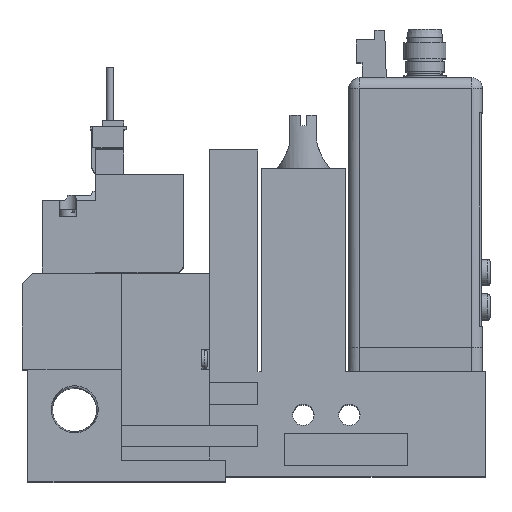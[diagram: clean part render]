
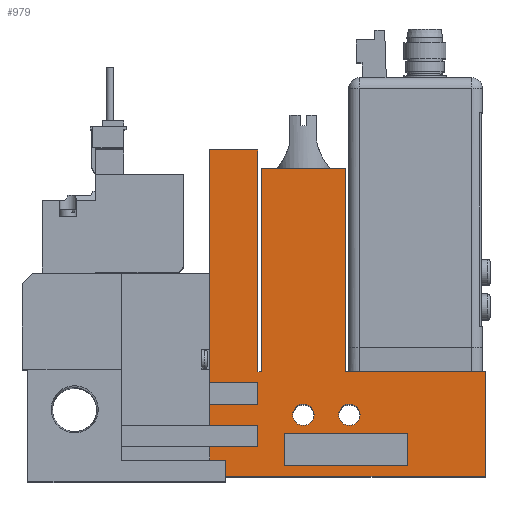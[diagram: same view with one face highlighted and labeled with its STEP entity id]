
A CAD part, top view. The second image highlights one B-rep face of the part: STEP entity #979.
In plain terms, the highlighted planar face has unit normal (0, 0, 1).
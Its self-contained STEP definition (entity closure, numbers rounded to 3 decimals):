
#979=ADVANCED_FACE('',(#4087,#4088,#4089,#4090),#4091,.T.);
#4087=FACE_OUTER_BOUND('',#10687,.T.);
#4088=FACE_BOUND('',#10688,.T.);
#4089=FACE_BOUND('',#10689,.T.);
#4090=FACE_BOUND('',#10690,.T.);
#4091=PLANE('',#10691);
#10687=EDGE_LOOP('',(#18809,#18810,#18811,#18812,#18813,#18814,#18815,#18816,#18817,#18818,#18819,#18820,#18821,#18822,#18823,#18824,#18825,#18826));
#10688=EDGE_LOOP('',(#18827,#18828,#18829,#18830));
#10689=EDGE_LOOP('',(#18831));
#10690=EDGE_LOOP('',(#18832));
#10691=AXIS2_PLACEMENT_3D('',#18833,#18834,#18835);
#18809=ORIENTED_EDGE('',*,*,#40108,.T.);
#18810=ORIENTED_EDGE('',*,*,#40109,.T.);
#18811=ORIENTED_EDGE('',*,*,#40110,.T.);
#18812=ORIENTED_EDGE('',*,*,#40111,.T.);
#18813=ORIENTED_EDGE('',*,*,#40112,.T.);
#18814=ORIENTED_EDGE('',*,*,#40113,.T.);
#18815=ORIENTED_EDGE('',*,*,#40114,.T.);
#18816=ORIENTED_EDGE('',*,*,#40115,.T.);
#18817=ORIENTED_EDGE('',*,*,#40116,.T.);
#18818=ORIENTED_EDGE('',*,*,#40117,.T.);
#18819=ORIENTED_EDGE('',*,*,#40118,.T.);
#18820=ORIENTED_EDGE('',*,*,#40119,.T.);
#18821=ORIENTED_EDGE('',*,*,#40120,.T.);
#18822=ORIENTED_EDGE('',*,*,#40121,.T.);
#18823=ORIENTED_EDGE('',*,*,#40122,.T.);
#18824=ORIENTED_EDGE('',*,*,#40123,.T.);
#18825=ORIENTED_EDGE('',*,*,#40124,.T.);
#18826=ORIENTED_EDGE('',*,*,#40125,.T.);
#18827=ORIENTED_EDGE('',*,*,#40126,.T.);
#18828=ORIENTED_EDGE('',*,*,#40127,.T.);
#18829=ORIENTED_EDGE('',*,*,#40128,.T.);
#18830=ORIENTED_EDGE('',*,*,#40129,.T.);
#18831=ORIENTED_EDGE('',*,*,#40130,.T.);
#18832=ORIENTED_EDGE('',*,*,#40131,.T.);
#18833=CARTESIAN_POINT('',(0.0,0.0,10.0));
#18834=DIRECTION('',(0.0,0.0,1.0));
#18835=DIRECTION('',(1.0,0.0,0.0));
#40108=EDGE_CURVE('',#48441,#48442,#48443,.T.);
#40109=EDGE_CURVE('',#48442,#48444,#48445,.T.);
#40110=EDGE_CURVE('',#48444,#48446,#48447,.T.);
#40111=EDGE_CURVE('',#48446,#48448,#48449,.T.);
#40112=EDGE_CURVE('',#48448,#48450,#48451,.T.);
#40113=EDGE_CURVE('',#48450,#48452,#48453,.T.);
#40114=EDGE_CURVE('',#48452,#48454,#48455,.T.);
#40115=EDGE_CURVE('',#48454,#48456,#48457,.T.);
#40116=EDGE_CURVE('',#48456,#48458,#48459,.T.);
#40117=EDGE_CURVE('',#48458,#48460,#48461,.T.);
#40118=EDGE_CURVE('',#48460,#48462,#48463,.T.);
#40119=EDGE_CURVE('',#48462,#48464,#48465,.T.);
#40120=EDGE_CURVE('',#48464,#48466,#48467,.T.);
#40121=EDGE_CURVE('',#48466,#48468,#48469,.T.);
#40122=EDGE_CURVE('',#48468,#48470,#48471,.T.);
#40123=EDGE_CURVE('',#48470,#48472,#48473,.T.);
#40124=EDGE_CURVE('',#48472,#48474,#48475,.T.);
#40125=EDGE_CURVE('',#48474,#48441,#48476,.T.);
#40126=EDGE_CURVE('',#48477,#48478,#48479,.T.);
#40127=EDGE_CURVE('',#48478,#48480,#48481,.T.);
#40128=EDGE_CURVE('',#48480,#48482,#48483,.T.);
#40129=EDGE_CURVE('',#48482,#48477,#48484,.T.);
#40130=EDGE_CURVE('',#48485,#48485,#48486,.T.);
#40131=EDGE_CURVE('',#48487,#48487,#48488,.T.);
#48441=VERTEX_POINT('',#60810);
#48442=VERTEX_POINT('',#60811);
#48443=LINE('',#60812,#60813);
#48444=VERTEX_POINT('',#60814);
#48445=LINE('',#60815,#60816);
#48446=VERTEX_POINT('',#60817);
#48447=LINE('',#60818,#60819);
#48448=VERTEX_POINT('',#60820);
#48449=LINE('',#60821,#60822);
#48450=VERTEX_POINT('',#60823);
#48451=LINE('',#60824,#60825);
#48452=VERTEX_POINT('',#60826);
#48453=LINE('',#60827,#60828);
#48454=VERTEX_POINT('',#60829);
#48455=LINE('',#60830,#60831);
#48456=VERTEX_POINT('',#60832);
#48457=LINE('',#60833,#60834);
#48458=VERTEX_POINT('',#60835);
#48459=LINE('',#60836,#60837);
#48460=VERTEX_POINT('',#60838);
#48461=LINE('',#60839,#60840);
#48462=VERTEX_POINT('',#60841);
#48463=LINE('',#60842,#60843);
#48464=VERTEX_POINT('',#60844);
#48465=LINE('',#60845,#60846);
#48466=VERTEX_POINT('',#60847);
#48467=LINE('',#60848,#60849);
#48468=VERTEX_POINT('',#60850);
#48469=LINE('',#60851,#60852);
#48470=VERTEX_POINT('',#60853);
#48471=LINE('',#60854,#60855);
#48472=VERTEX_POINT('',#60856);
#48473=LINE('',#60857,#60858);
#48474=VERTEX_POINT('',#60859);
#48475=LINE('',#60860,#60861);
#48476=LINE('',#60862,#60863);
#48477=VERTEX_POINT('',#60864);
#48478=VERTEX_POINT('',#60865);
#48479=LINE('',#60866,#60867);
#48480=VERTEX_POINT('',#60868);
#48481=LINE('',#60869,#60870);
#48482=VERTEX_POINT('',#60871);
#48483=LINE('',#60872,#60873);
#48484=LINE('',#60874,#60875);
#48485=VERTEX_POINT('',#60876);
#48486=CIRCLE('',#60877,2.0);
#48487=VERTEX_POINT('',#60878);
#48488=CIRCLE('',#60879,2.0);
#60810=CARTESIAN_POINT('',(35.1,61.0,10.0));
#60811=CARTESIAN_POINT('',(35.1,17.5,10.0));
#60812=CARTESIAN_POINT('',(35.1,61.0,10.0));
#60813=VECTOR('',#78417,1.0);
#60814=CARTESIAN_POINT('',(44.1,17.5,10.0));
#60815=CARTESIAN_POINT('',(0.0,17.5,10.0));
#60816=VECTOR('',#78418,1.0);
#60817=CARTESIAN_POINT('',(44.1,13.5,10.0));
#60818=CARTESIAN_POINT('',(44.1,0.0,10.0));
#60819=VECTOR('',#78419,1.0);
#60820=CARTESIAN_POINT('',(35.1,13.5,10.0));
#60821=CARTESIAN_POINT('',(0.0,13.5,10.0));
#60822=VECTOR('',#78420,1.0);
#60823=CARTESIAN_POINT('',(35.1,9.5,10.0));
#60824=CARTESIAN_POINT('',(35.1,0.0,10.0));
#60825=VECTOR('',#78421,1.0);
#60826=CARTESIAN_POINT('',(44.1,9.5,10.0));
#60827=CARTESIAN_POINT('',(0.0,9.5,10.0));
#60828=VECTOR('',#78422,1.0);
#60829=CARTESIAN_POINT('',(44.1,5.5,10.0));
#60830=CARTESIAN_POINT('',(44.1,0.0,10.0));
#60831=VECTOR('',#78423,1.0);
#60832=CARTESIAN_POINT('',(35.1,5.5,10.0));
#60833=CARTESIAN_POINT('',(0.0,5.5,10.0));
#60834=VECTOR('',#78424,1.0);
#60835=CARTESIAN_POINT('',(35.1,0.0,10.0));
#60836=CARTESIAN_POINT('',(35.1,0.0,10.0));
#60837=VECTOR('',#78425,1.0);
#60838=CARTESIAN_POINT('',(86.6,0.0,10.0));
#60839=CARTESIAN_POINT('',(18.6,0.0,10.0));
#60840=VECTOR('',#78426,1.0);
#60841=CARTESIAN_POINT('',(86.6,19.5,10.0));
#60842=CARTESIAN_POINT('',(86.6,0.0,10.0));
#60843=VECTOR('',#78427,1.0);
#60844=CARTESIAN_POINT('',(60.45,19.5,10.0));
#60845=CARTESIAN_POINT('',(86.6,19.5,10.0));
#60846=VECTOR('',#78428,1.0);
#60847=CARTESIAN_POINT('',(60.45,57.5,10.0));
#60848=CARTESIAN_POINT('',(60.45,19.5,10.0));
#60849=VECTOR('',#78429,1.0);
#60850=CARTESIAN_POINT('',(44.75,57.5,10.0));
#60851=CARTESIAN_POINT('',(60.45,57.5,10.0));
#60852=VECTOR('',#78430,1.0);
#60853=CARTESIAN_POINT('',(44.75,19.5,10.0));
#60854=CARTESIAN_POINT('',(44.75,57.5,10.0));
#60855=VECTOR('',#78431,1.0);
#60856=CARTESIAN_POINT('',(44.1,19.5,10.0));
#60857=CARTESIAN_POINT('',(44.75,19.5,10.0));
#60858=VECTOR('',#78432,1.0);
#60859=CARTESIAN_POINT('',(44.1,61.0,10.0));
#60860=CARTESIAN_POINT('',(44.1,19.5,10.0));
#60861=VECTOR('',#78433,1.0);
#60862=CARTESIAN_POINT('',(44.1,61.0,10.0));
#60863=VECTOR('',#78434,1.0);
#60864=CARTESIAN_POINT('',(49.1,2.0,10.0));
#60865=CARTESIAN_POINT('',(49.1,8.0,10.0));
#60866=CARTESIAN_POINT('',(49.1,0.0,10.0));
#60867=VECTOR('',#78435,1.0);
#60868=CARTESIAN_POINT('',(72.1,8.0,10.0));
#60869=CARTESIAN_POINT('',(0.0,8.0,10.0));
#60870=VECTOR('',#78436,1.0);
#60871=CARTESIAN_POINT('',(72.1,2.0,10.0));
#60872=CARTESIAN_POINT('',(72.1,0.0,10.0));
#60873=VECTOR('',#78437,1.0);
#60874=CARTESIAN_POINT('',(0.0,2.0,10.0));
#60875=VECTOR('',#78438,1.0);
#60876=CARTESIAN_POINT('',(54.6,11.5,10.0));
#60877=AXIS2_PLACEMENT_3D('',#78439,#78440,#78441);
#60878=CARTESIAN_POINT('',(63.2,11.5,10.0));
#60879=AXIS2_PLACEMENT_3D('',#78442,#78443,#78444);
#78417=DIRECTION('',(0.0,-1.0,0.0));
#78418=DIRECTION('',(1.0,0.0,0.0));
#78419=DIRECTION('',(0.0,-1.0,0.0));
#78420=DIRECTION('',(-1.0,0.0,0.0));
#78421=DIRECTION('',(0.0,-1.0,0.0));
#78422=DIRECTION('',(1.0,0.0,0.0));
#78423=DIRECTION('',(0.0,-1.0,0.0));
#78424=DIRECTION('',(-1.0,0.0,0.0));
#78425=DIRECTION('',(0.0,-1.0,0.0));
#78426=DIRECTION('',(1.0,0.0,0.0));
#78427=DIRECTION('',(0.0,1.0,0.0));
#78428=DIRECTION('',(-1.0,0.0,0.0));
#78429=DIRECTION('',(0.0,1.0,0.0));
#78430=DIRECTION('',(-1.0,0.0,0.0));
#78431=DIRECTION('',(0.0,-1.0,0.0));
#78432=DIRECTION('',(-1.0,0.0,0.0));
#78433=DIRECTION('',(0.0,1.0,0.0));
#78434=DIRECTION('',(-1.0,0.0,0.0));
#78435=DIRECTION('',(0.0,1.0,0.0));
#78436=DIRECTION('',(1.0,0.0,0.0));
#78437=DIRECTION('',(0.0,-1.0,0.0));
#78438=DIRECTION('',(-1.0,0.0,0.0));
#78439=CARTESIAN_POINT('',(52.6,11.5,10.0));
#78440=DIRECTION('',(0.0,0.0,-1.0));
#78441=DIRECTION('',(1.0,0.0,0.0));
#78442=CARTESIAN_POINT('',(61.2,11.5,10.0));
#78443=DIRECTION('',(0.0,0.0,-1.0));
#78444=DIRECTION('',(1.0,0.0,0.0));
